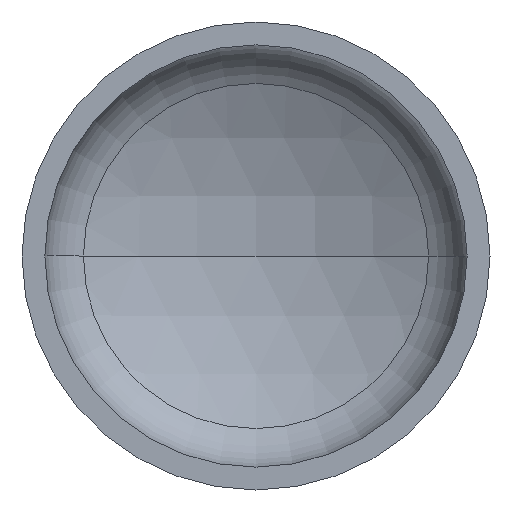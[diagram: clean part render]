
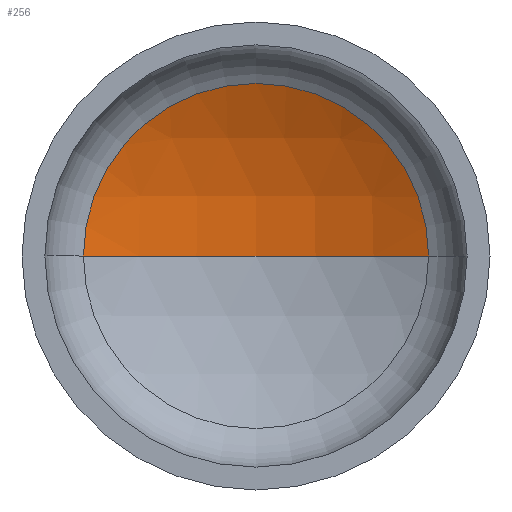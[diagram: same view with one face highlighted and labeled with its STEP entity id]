
A CAD part, front view. The second image highlights one B-rep face of the part: STEP entity #256.
In plain terms, the highlighted spherical face has radius 1440 mm.
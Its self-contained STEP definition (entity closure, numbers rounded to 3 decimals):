
#4 = EDGE_LOOP ( 'NONE', ( #5, #122, #88 ) ) ;
#5 = ORIENTED_EDGE ( 'NONE', *, *, #176, .F. ) ;
#31 = VERTEX_POINT ( 'NONE', #296 ) ;
#50 = CARTESIAN_POINT ( 'NONE',  ( 0., -933.855, 0. ) ) ;
#54 = DIRECTION ( 'NONE',  ( 0., 0., -1. ) ) ;
#79 = AXIS2_PLACEMENT_3D ( 'NONE', #50, #54, #185 ) ;
#88 = ORIENTED_EDGE ( 'NONE', *, *, #172, .T. ) ;
#93 = AXIS2_PLACEMENT_3D ( 'NONE', #282, #278, #276 ) ;
#101 = VERTEX_POINT ( 'NONE', #234 ) ;
#104 = AXIS2_PLACEMENT_3D ( 'NONE', #218, #220, #254 ) ;
#105 = AXIS2_PLACEMENT_3D ( 'NONE', #351, #189, #202 ) ;
#122 = ORIENTED_EDGE ( 'NONE', *, *, #173, .T. ) ;
#135 = VERTEX_POINT ( 'NONE', #325 ) ;
#172 = EDGE_CURVE ( 'NONE', #135, #31, #369, .T. ) ;
#173 = EDGE_CURVE ( 'NONE', #101, #135, #175, .T. ) ;
#175 = CIRCLE ( 'NONE', #104, 1440. ) ;
#176 = EDGE_CURVE ( 'NONE', #101, #31, #359, .T. ) ;
#185 = DIRECTION ( 'NONE',  ( -1., 0., 0. ) ) ;
#189 = DIRECTION ( 'NONE',  ( 0., -1., 0. ) ) ;
#202 = DIRECTION ( 'NONE',  ( 1., 0., 0. ) ) ;
#218 = CARTESIAN_POINT ( 'NONE',  ( 0., -933.855, 0. ) ) ;
#220 = DIRECTION ( 'NONE',  ( 0., 0., -1. ) ) ;
#234 = CARTESIAN_POINT ( 'NONE',  ( 0., 506.145, 0. ) ) ;
#254 = DIRECTION ( 'NONE',  ( -1., 0., 0. ) ) ;
#256 = ADVANCED_FACE ( 'NONE', ( #409 ), #299, .F. ) ;
#276 = DIRECTION ( 'NONE',  ( 1., 0., 0. ) ) ;
#278 = DIRECTION ( 'NONE',  ( 0., 0., 1. ) ) ;
#282 = CARTESIAN_POINT ( 'NONE',  ( 0., -933.855, 0. ) ) ;
#296 = CARTESIAN_POINT ( 'NONE',  ( -663.76, 344.043, 0. ) ) ;
#299 = SPHERICAL_SURFACE ( 'NONE', #79, 1440. ) ;
#325 = CARTESIAN_POINT ( 'NONE',  ( 663.76, 344.043, 0. ) ) ;
#351 = CARTESIAN_POINT ( 'NONE',  ( 0., 344.043, 0. ) ) ;
#359 = CIRCLE ( 'NONE', #93, 1440. ) ;
#369 = CIRCLE ( 'NONE', #105, 663.76 ) ;
#409 = FACE_OUTER_BOUND ( 'NONE', #4, .T. ) ;
